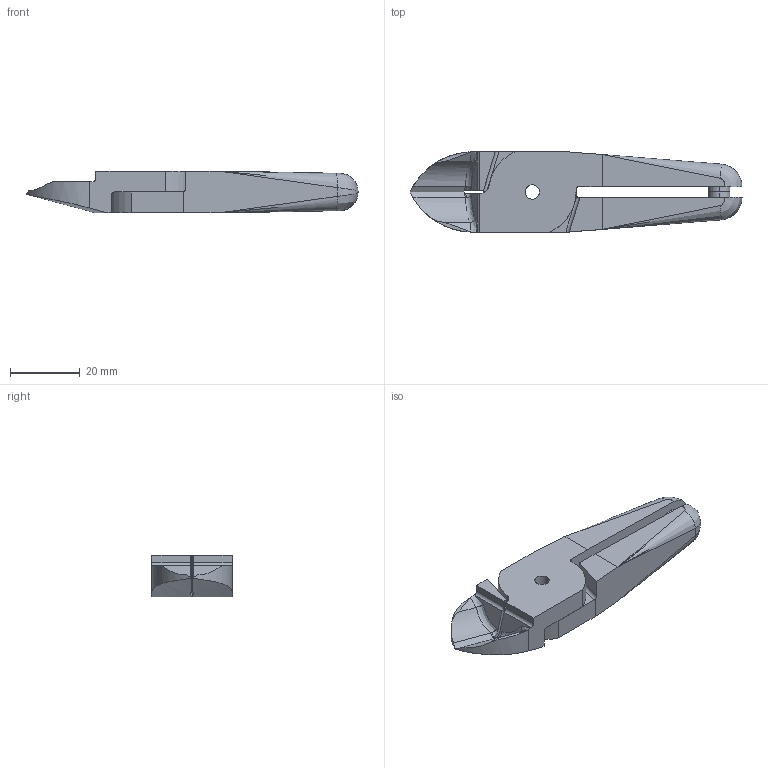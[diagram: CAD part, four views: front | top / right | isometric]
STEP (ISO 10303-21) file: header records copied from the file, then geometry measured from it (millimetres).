
FILE_DESCRIPTION (( 'STEP AP214' ), '1' );
FILE_NAME ('N20AP.STEP', '2019-11-29T03:42:10', ( '微软用户' ), ( '微软中国' ), 'SwSTEP 2.0', 'SolidWorks 2016', '' );
FILE_SCHEMA (( 'AUTOMOTIVE_DESIGN' ));
Length unit declared in the file: millimetre
Products named in the file (1): N20AP
Bounding box: 95 x 23 x 12 mm (x, y, z)
Surface area: 8166.8 mm2 (no closed solid volume)
Topology: 0 solids, 3 shells, 87 faces, 242 edges, 155 vertices
Faces by surface type: plane 42, cylinder 30, bspline 15
Entity records: 5328 total; most frequent: CARTESIAN_POINT 2852, ORIENTED_EDGE 466, DIRECTION 340, EDGE_CURVE 238, VERTEX_POINT 155, LINE 132, VECTOR 132, AXIS2_PLACEMENT_3D 104
